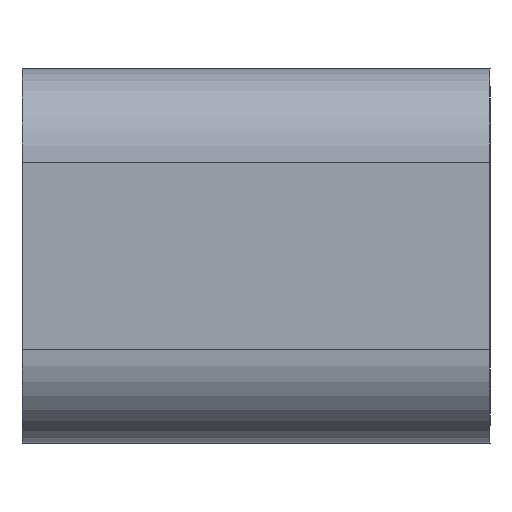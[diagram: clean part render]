
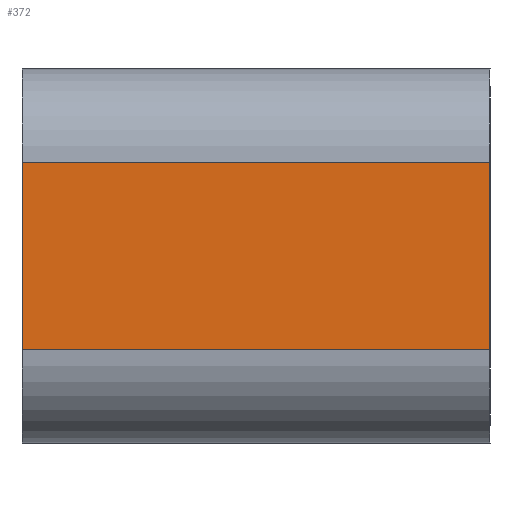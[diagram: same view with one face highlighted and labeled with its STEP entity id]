
A CAD part, left-side view. The second image highlights one B-rep face of the part: STEP entity #372.
In plain terms, the highlighted planar face has unit normal (-1, 0, 0).
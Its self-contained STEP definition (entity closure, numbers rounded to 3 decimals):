
#372=ADVANCED_FACE('',(#729),#730,.T.);
#729=FACE_OUTER_BOUND('',#1072,.T.);
#730=PLANE('',#1073);
#1072=EDGE_LOOP('',(#2033,#2034,#2035,#2036));
#1073=AXIS2_PLACEMENT_3D('',#2037,#2038,#2039);
#2033=ORIENTED_EDGE('',*,*,#2576,.T.);
#2034=ORIENTED_EDGE('',*,*,#2559,.F.);
#2035=ORIENTED_EDGE('',*,*,#2548,.F.);
#2036=ORIENTED_EDGE('',*,*,#2574,.T.);
#2037=CARTESIAN_POINT('',(-20.0,10.0,0.0));
#2038=DIRECTION('',(-1.0,0.0,0.0));
#2039=DIRECTION('',(0.0,0.0,-1.0));
#2548=EDGE_CURVE('',#3175,#3177,#3178,.T.);
#2559=EDGE_CURVE('',#3177,#3191,#3193,.T.);
#2574=EDGE_CURVE('',#3175,#3211,#3213,.T.);
#2576=EDGE_CURVE('',#3211,#3191,#3215,.T.);
#3175=VERTEX_POINT('',#3981);
#3177=VERTEX_POINT('',#3983);
#3178=LINE('',#3984,#3985);
#3191=VERTEX_POINT('',#4003);
#3193=LINE('',#4005,#4006);
#3211=VERTEX_POINT('',#4030);
#3213=LINE('',#4032,#4033);
#3215=LINE('',#4035,#4036);
#3981=CARTESIAN_POINT('',(-20.0,10.0,-4.0));
#3983=CARTESIAN_POINT('',(-20.0,10.0,4.0));
#3984=CARTESIAN_POINT('',(-20.0,10.0,-4.0));
#3985=VECTOR('',#4599,1.0);
#4003=CARTESIAN_POINT('',(-20.0,-10.0,4.0));
#4005=CARTESIAN_POINT('',(-20.0,10.0,4.0));
#4006=VECTOR('',#4611,1.0);
#4030=CARTESIAN_POINT('',(-20.0,-10.0,-4.0));
#4032=CARTESIAN_POINT('',(-20.0,10.0,-4.0));
#4033=VECTOR('',#4627,1.0);
#4035=CARTESIAN_POINT('',(-20.0,-10.0,-4.0));
#4036=VECTOR('',#4628,1.0);
#4599=DIRECTION('',(0.0,0.0,1.0));
#4611=DIRECTION('',(0.0,-1.0,0.0));
#4627=DIRECTION('',(0.0,-1.0,0.0));
#4628=DIRECTION('',(0.0,0.0,1.0));
